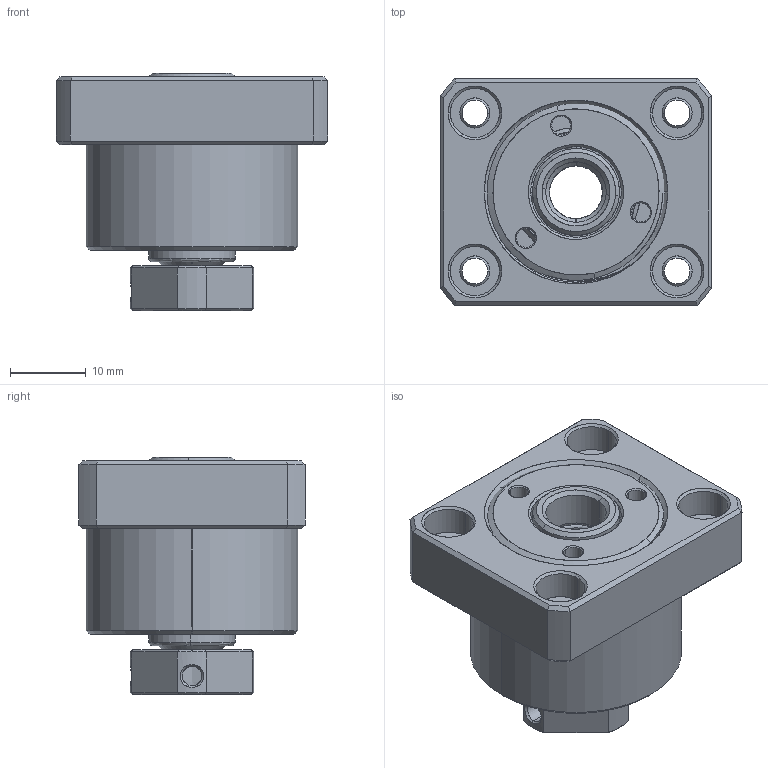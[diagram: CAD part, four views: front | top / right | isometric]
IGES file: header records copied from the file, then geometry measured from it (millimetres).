
Start section: SolidWorks IGES file using analytic representation for surfaces
Bounding box: 36 x 30 x 31.5 mm (x, y, z)
Surface area: 7376.9 mm2 (no closed solid volume)
Topology: 0 solids, 0 shells, 169 faces, 2080 edges, 2080 vertices
Faces by surface type: revolution 115, bspline 54
